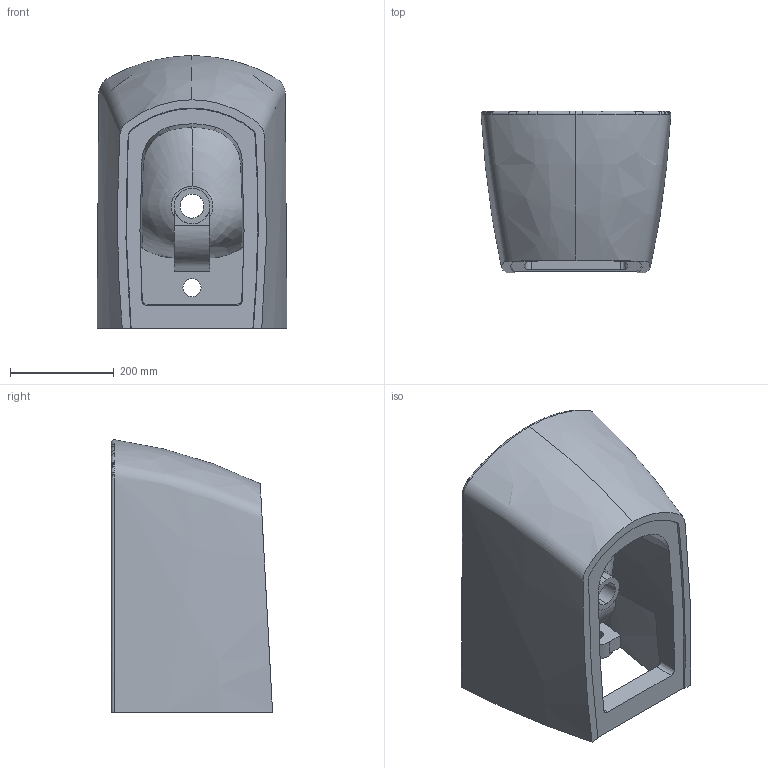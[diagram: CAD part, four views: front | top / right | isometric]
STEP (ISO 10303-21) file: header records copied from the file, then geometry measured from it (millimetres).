
FILE_DESCRIPTION (( 'STEP AP203' ), '1' );
FILE_NAME ('EG510 model.STEP', '2022-04-06T11:26:27', ( '' ), ( '' ), 'SwSTEP 2.0', 'SolidWorks 2021', '' );
FILE_SCHEMA (( 'CONFIG_CONTROL_DESIGN' ));
Products named in the file (1): EG510 model
Bounding box: 365.31 x 310 x 524.31 mm (x, y, z)
Volume: 22593430 mm3; surface area: 1122447.6 mm2
Topology: 2 solids, 2 shells, 174 faces, 505 edges, 337 vertices
Faces by surface type: bspline 93, plane 43, cylinder 36, cone 2
Entity records: 76303 total; most frequent: CARTESIAN_POINT 72379, ORIENTED_EDGE 1010, DIRECTION 515, EDGE_CURVE 505, VERTEX_POINT 337, B_SPLINE_CURVE_WITH_KNOTS 264, AXIS2_PLACEMENT_3D 194, EDGE_LOOP 188
